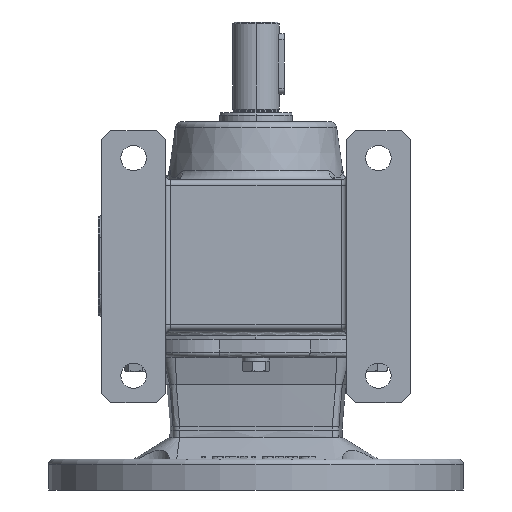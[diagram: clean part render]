
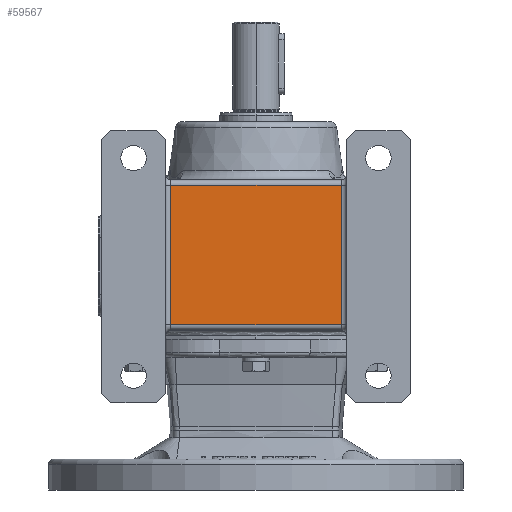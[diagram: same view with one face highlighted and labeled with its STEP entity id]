
A CAD part, front view. The second image highlights one B-rep face of the part: STEP entity #59567.
In plain terms, the highlighted planar face has unit normal (0, -1, 0).
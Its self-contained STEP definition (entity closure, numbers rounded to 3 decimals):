
#9495 = ORIENTED_EDGE ( 'NONE', *, *, #12871, .T. ) ;
#9496 = ORIENTED_EDGE ( 'NONE', *, *, #12872, .T. ) ;
#9497 = ORIENTED_EDGE ( 'NONE', *, *, #12870, .T. ) ;
#9498 = ORIENTED_EDGE ( 'NONE', *, *, #12873, .T. ) ;
#12870 = EDGE_CURVE ( 'NONE', #15972, #15975, #73177, .T. ) ;
#12871 = EDGE_CURVE ( 'NONE', #15971, #15972, #73180, .T. ) ;
#12872 = EDGE_CURVE ( 'NONE', #15975, #15976, #73183, .T. ) ;
#12873 = EDGE_CURVE ( 'NONE', #15976, #15971, #73186, .T. ) ;
#15971 = VERTEX_POINT ( 'NONE', #72042 ) ;
#15972 = VERTEX_POINT ( 'NONE', #72044 ) ;
#15975 = VERTEX_POINT ( 'NONE', #72050 ) ;
#15976 = VERTEX_POINT ( 'NONE', #72052 ) ;
#43828 = PLANE ( 'NONE',  #57372 ) ;
#43830 = CARTESIAN_POINT ( 'NONE',  ( 50., -77., 32. ) ) ;
#43831 = DIRECTION ( 'NONE',  ( 0., 1., 0. ) ) ;
#43832 = DIRECTION ( 'NONE',  ( 0., 0., 1. ) ) ;
#50842 = VECTOR ( 'NONE', #73179, 1000. ) ;
#50843 = VECTOR ( 'NONE', #73182, 1000. ) ;
#50844 = VECTOR ( 'NONE', #73185, 1000. ) ;
#50845 = VECTOR ( 'NONE', #73188, 1000. ) ;
#57372 = AXIS2_PLACEMENT_3D ( 'NONE', #43830, #43831, #43832 ) ;
#57373 = FACE_OUTER_BOUND ( 'NONE', #61987, .T. ) ;
#59567 = ADVANCED_FACE ( 'NONE', ( #57373 ), #43828, .F. ) ;
#61987 = EDGE_LOOP ( 'NONE', ( #9495, #9497, #9496, #9498 ) ) ;
#72042 = CARTESIAN_POINT ( 'NONE',  ( -47., -77., -3. ) ) ;
#72044 = CARTESIAN_POINT ( 'NONE',  ( -47., -77., -80. ) ) ;
#72050 = CARTESIAN_POINT ( 'NONE',  ( 47., -77., -80. ) ) ;
#72052 = CARTESIAN_POINT ( 'NONE',  ( 47., -77., -3. ) ) ;
#73177 = LINE ( 'NONE', #73178, #50842 ) ;
#73178 = CARTESIAN_POINT ( 'NONE',  ( 50., -77., -80. ) ) ;
#73179 = DIRECTION ( 'NONE',  ( 1., 0., 0. ) ) ;
#73180 = LINE ( 'NONE', #73181, #50843 ) ;
#73181 = CARTESIAN_POINT ( 'NONE',  ( -47., -77., 32. ) ) ;
#73182 = DIRECTION ( 'NONE',  ( 0., 0., -1. ) ) ;
#73183 = LINE ( 'NONE', #73184, #50844 ) ;
#73184 = CARTESIAN_POINT ( 'NONE',  ( 47., -77., 32. ) ) ;
#73185 = DIRECTION ( 'NONE',  ( 0., 0., 1. ) ) ;
#73186 = LINE ( 'NONE', #73187, #50845 ) ;
#73187 = CARTESIAN_POINT ( 'NONE',  ( -50., -77., -3. ) ) ;
#73188 = DIRECTION ( 'NONE',  ( -1., 0., 0. ) ) ;
